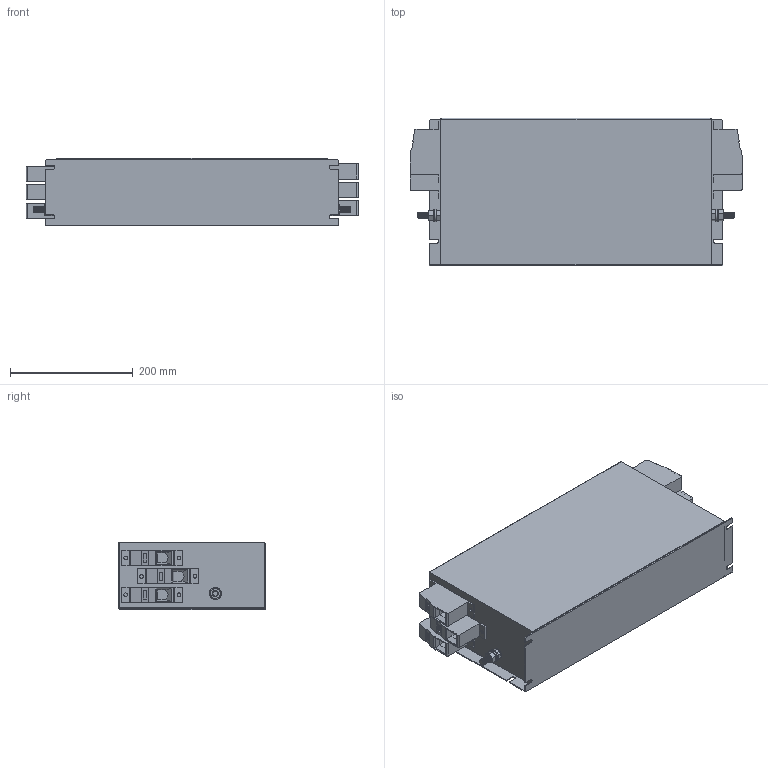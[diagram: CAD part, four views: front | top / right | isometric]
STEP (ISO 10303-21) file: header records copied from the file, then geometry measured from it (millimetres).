
FILE_DESCRIPTION (( 'STEP AP203' ), '1' );
FILE_NAME ('NF-R-250.STEP', '2022-02-11T08:53:03', ( '' ), ( '' ), 'SwSTEP 2.0', 'SolidWorks 2017', '' );
FILE_SCHEMA (( 'CONFIG_CONTROL_DESIGN' ));
Length unit declared in the file: millimetre
Products named in the file (7): hex screw_am_B18.6.7M - M10 x 1.5 x 30 Indented HHMS --30S; NF-R-180; HDFK-95; flat washer narrow_am_B18.22M - Plain washer, 10 mm, narrow; M10x30 Earth post; NF-R-250; hex nut style 1_am_B18.2.4.1M - Hex nut, Style 1,  M10 x 1.5, with 16mm WAF --D-N
Assembly tree (13 placements, depth 3):
  NF-R-250
    NF-R-180
    M10x30 Earth post  x2
      flat washer narrow_am_B18.22M - Plain washer, 10 mm, narrow
      hex nut style 1_am_B18.2.4.1M - Hex nut, Style 1,  M10 x 1.5, with 16mm WAF --D-N
      hex screw_am_B18.6.7M - M10 x 1.5 x 30 Indented HHMS --30S
    HDFK-95  x6
Bounding box: 540 x 240 x 110 mm (x, y, z)
Volume: 11849950.3 mm3; surface area: 604776.4 mm2
Topology: 15 solids, 15 shells, 913 faces, 2329 edges, 1490 vertices
Faces by surface type: plane 507, cylinder 204, cone 200, sphere 2
Entity records: 11020 total; most frequent: CARTESIAN_POINT 1924, DIRECTION 1783, ORIENTED_EDGE 1678, EDGE_CURVE 839, AXIS2_PLACEMENT_3D 639, VERTEX_POINT 532, VECTOR 505, LINE 505
